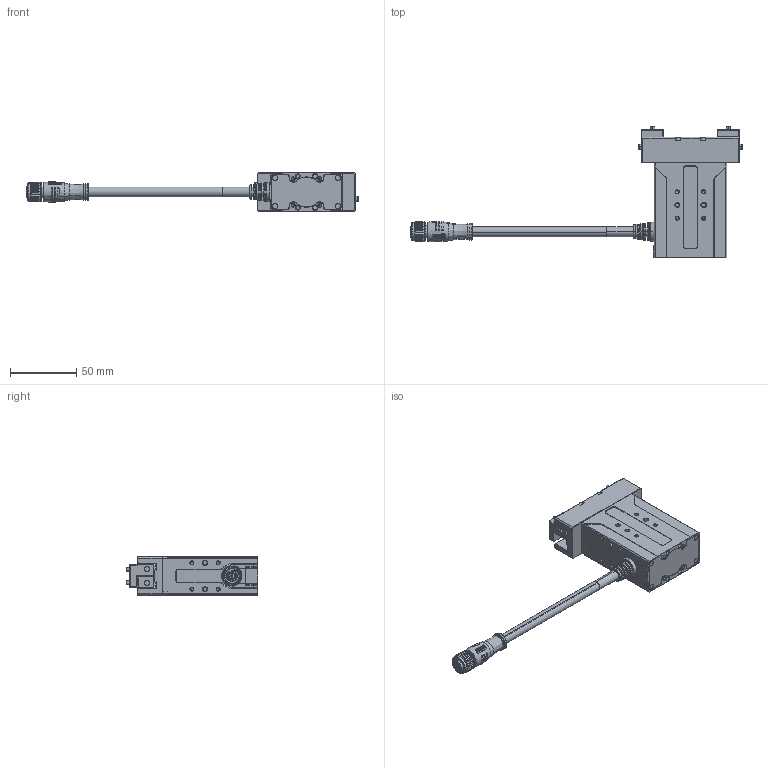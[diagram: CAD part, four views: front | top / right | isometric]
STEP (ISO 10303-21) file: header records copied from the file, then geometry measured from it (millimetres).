
FILE_DESCRIPTION (( 'STEP AP214' ), '1' );
FILE_NAME ('PGE-50-40-O-S潠眢耀倰.STEP', '2023-08-24T06:35:44', ( '' ), ( '' ), 'SwSTEP 2.0', 'SolidWorks 2020', '' );
FILE_SCHEMA (( 'AUTOMOTIVE_DESIGN' ));
Length unit declared in the file: millimetre
Products named in the file (3): PGE-50-40忒硌; 侧出壳不加U型支架PGE-50-40-O-S; PGE-50-40-O-S潠眢耀倰
Assembly tree (3 placements, depth 2):
  PGE-50-40-O-S潠眢耀倰
    侧出壳不加U型支架PGE-50-40-O-S
    PGE-50-40忒硌  x2
Bounding box: 251.3 x 99.8 x 29 mm (x, y, z)
Volume: 15613.3 mm3; surface area: 49389.7 mm2
Topology: 6 solids, 22 shells, 1756 faces, 4339 edges, 2677 vertices
Faces by surface type: plane 723, cylinder 414, cone 329, bspline 281, torus 8, sphere 1
Full cylindrical faces by diameter (mm): 11.1 x3
Entity records: 82095 total; most frequent: CARTESIAN_POINT 27167, ORIENTED_EDGE 8048, DIRECTION 6943, EDGE_CURVE 4028, VERTEX_POINT 2529, AXIS2_PLACEMENT_3D 2494, LINE 1955, VECTOR 1955
